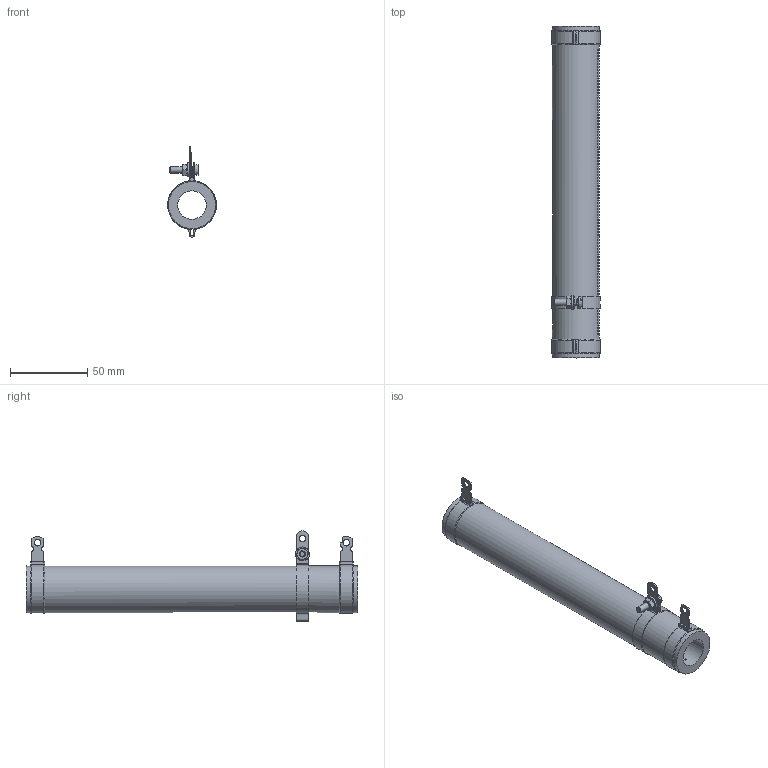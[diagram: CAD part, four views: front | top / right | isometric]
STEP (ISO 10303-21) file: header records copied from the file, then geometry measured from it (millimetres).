
FILE_DESCRIPTION(/* description */ (''),/* implementation_level */ '2;1');
FILE_NAME(/* name */ 'C:\_Vault\Dati\CATALOGO\RCA-RSA\R 25-1000\3D\RCAR 200.stp',/* time_stamp */ '2014-03-18T17:27:53+01:00',/* author */ ('stefano'),/* organization */ (''),/* preprocessor_version */ 'ST-DEVELOPER v15.2',/* originating_system */ 'Autodesk Inventor 2014',/* authorisation */ '');
FILE_SCHEMA (('AUTOMOTIVE_DESIGN { 1 0 10303 214 3 1 1 }'));
Length unit declared in the file: millimetre
Products named in the file (1): RCAR 200
Bounding box: 31.57 x 215 x 58.36 mm (x, y, z)
Volume: 101224.1 mm3; surface area: 36720 mm2
Topology: 1 solids, 2 shells, 595 faces, 1435 edges, 942 vertices
Faces by surface type: plane 421, cylinder 139, cone 17, torus 14, bspline 4
Full cylindrical faces by diameter (mm): 3.571 x1, 4 x2, 4.2 x5, 4.3 x1, 9 x1, 18.5 x1, 30.5 x3
Entity records: 18149 total; most frequent: CARTESIAN_POINT 3338, DIRECTION 3038, ORIENTED_EDGE 2808, EDGE_CURVE 1404, AXIS2_PLACEMENT_3D 1095, VERTEX_POINT 931, LINE 848, VECTOR 848
